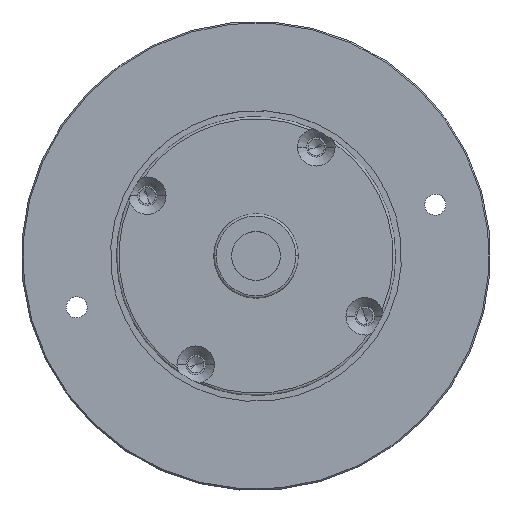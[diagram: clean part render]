
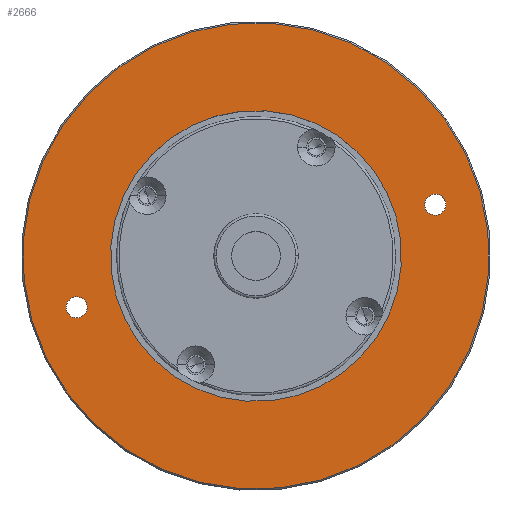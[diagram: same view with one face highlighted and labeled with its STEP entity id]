
A CAD part, top view. The second image highlights one B-rep face of the part: STEP entity #2666.
In plain terms, the highlighted planar face has unit normal (0, 0, 1).
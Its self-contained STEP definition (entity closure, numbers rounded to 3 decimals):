
#1831=CARTESIAN_POINT('',(-0.003,0.003,4.5));
#1832=DIRECTION('',(0.,0.,1.));
#1833=DIRECTION('',(-0.276,0.961,0.));
#1834=AXIS2_PLACEMENT_3D('',#1831,#1832,#1833);
#1836=CARTESIAN_POINT('',(-0.003,0.003,4.5));
#1837=DIRECTION('',(0.,0.,1.));
#1838=DIRECTION('',(0.276,-0.961,0.));
#1839=AXIS2_PLACEMENT_3D('',#1836,#1837,#1838);
#1841=CARTESIAN_POINT('',(-0.003,0.003,4.5));
#1842=DIRECTION('',(0.,0.,1.));
#1843=DIRECTION('',(0.961,0.276,0.));
#1844=AXIS2_PLACEMENT_3D('',#1841,#1842,#1843);
#1846=CARTESIAN_POINT('',(-0.003,0.003,4.5));
#1847=DIRECTION('',(0.,0.,1.));
#1848=DIRECTION('',(-0.961,-0.276,0.));
#1849=AXIS2_PLACEMENT_3D('',#1846,#1847,#1848);
#1851=CARTESIAN_POINT('',(-38.213,-10.954,4.5));
#1852=DIRECTION('',(0.,0.,-1.));
#1853=DIRECTION('',(0.961,0.276,0.));
#1854=AXIS2_PLACEMENT_3D('',#1851,#1852,#1853);
#1856=CARTESIAN_POINT('',(-38.213,-10.954,4.5));
#1857=DIRECTION('',(0.,0.,-1.));
#1858=DIRECTION('',(-0.961,-0.276,0.));
#1859=AXIS2_PLACEMENT_3D('',#1856,#1857,#1858);
#1861=CARTESIAN_POINT('',(38.208,10.959,4.5));
#1862=DIRECTION('',(0.,0.,1.));
#1863=DIRECTION('',(-0.961,-0.276,0.));
#1864=AXIS2_PLACEMENT_3D('',#1861,#1862,#1863);
#1866=CARTESIAN_POINT('',(38.208,10.959,4.5));
#1867=DIRECTION('',(0.,0.,1.));
#1868=DIRECTION('',(0.961,0.276,0.));
#1869=AXIS2_PLACEMENT_3D('',#1866,#1867,#1868);
#2276=CARTESIAN_POINT('',(-13.702,47.777,4.5));
#2277=CARTESIAN_POINT('',(13.697,-47.772,4.5));
#2278=VERTEX_POINT('',#2276);
#2279=VERTEX_POINT('',#2277);
#2288=CARTESIAN_POINT('',(29.797,8.547,4.5));
#2289=CARTESIAN_POINT('',(-29.802,-8.542,4.5));
#2290=VERTEX_POINT('',#2288);
#2291=VERTEX_POINT('',#2289);
#2308=CARTESIAN_POINT('',(-36.05,-10.334,4.5));
#2309=CARTESIAN_POINT('',(-40.376,-11.574,4.5));
#2310=VERTEX_POINT('',#2308);
#2311=VERTEX_POINT('',#2309);
#2324=CARTESIAN_POINT('',(36.045,10.339,4.5));
#2325=CARTESIAN_POINT('',(40.37,11.579,4.5));
#2326=VERTEX_POINT('',#2324);
#2327=VERTEX_POINT('',#2325);
#2641=CARTESIAN_POINT('',(-0.003,0.003,4.5));
#2642=DIRECTION('',(0.,0.,-1.));
#2643=DIRECTION('',(0.276,-0.961,0.));
#2644=AXIS2_PLACEMENT_3D('',#2641,#2642,#2643);
#2645=PLANE('',#2644);
#2647=ORIENTED_EDGE('',*,*,#2646,.F.);
#2649=ORIENTED_EDGE('',*,*,#2648,.F.);
#2650=EDGE_LOOP('',(#2647,#2649));
#2651=FACE_OUTER_BOUND('',#2650,.F.);
#2653=ORIENTED_EDGE('',*,*,#2652,.T.);
#2655=ORIENTED_EDGE('',*,*,#2654,.T.);
#2656=EDGE_LOOP('',(#2653,#2655));
#2657=FACE_BOUND('',#2656,.F.);
#2658=ORIENTED_EDGE('',*,*,#2595,.F.);
#2659=ORIENTED_EDGE('',*,*,#2610,.F.);
#2660=EDGE_LOOP('',(#2658,#2659));
#2661=FACE_BOUND('',#2660,.F.);
#2662=ORIENTED_EDGE('',*,*,#2492,.T.);
#2663=ORIENTED_EDGE('',*,*,#2477,.T.);
#2664=EDGE_LOOP('',(#2662,#2663));
#2665=FACE_BOUND('',#2664,.F.);
#2666=ADVANCED_FACE('',(#2651,#2657,#2661,#2665),#2645,.F.);
#1835=CIRCLE('',#1834,49.7);
#1840=CIRCLE('',#1839,49.7);
#1845=CIRCLE('',#1844,31.);
#1850=CIRCLE('',#1849,31.);
#1855=CIRCLE('',#1854,2.25);
#1860=CIRCLE('',#1859,2.25);
#1865=CIRCLE('',#1864,2.25);
#1870=CIRCLE('',#1869,2.25);
#2477=EDGE_CURVE('',#2327,#2326,#1870,.T.);
#2492=EDGE_CURVE('',#2326,#2327,#1865,.T.);
#2595=EDGE_CURVE('',#2310,#2311,#1855,.T.);
#2610=EDGE_CURVE('',#2311,#2310,#1860,.T.);
#2646=EDGE_CURVE('',#2278,#2279,#1835,.T.);
#2648=EDGE_CURVE('',#2279,#2278,#1840,.T.);
#2652=EDGE_CURVE('',#2290,#2291,#1845,.T.);
#2654=EDGE_CURVE('',#2291,#2290,#1850,.T.);
